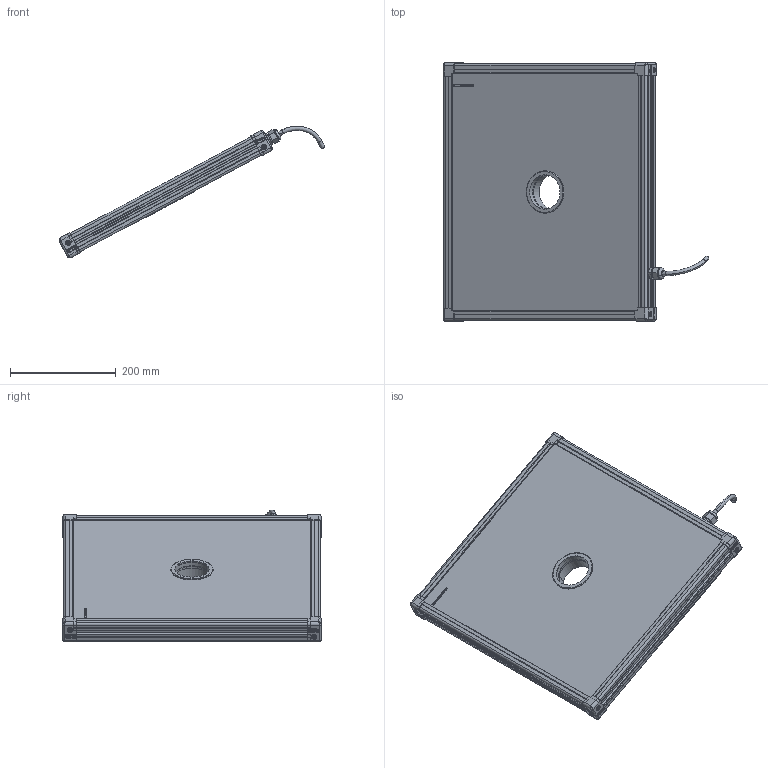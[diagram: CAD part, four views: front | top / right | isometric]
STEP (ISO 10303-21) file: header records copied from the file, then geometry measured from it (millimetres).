
FILE_DESCRIPTION (( 'STEP AP214' ), '1' );
FILE_NAME ('EFFI-FD-400-449-ZZZ-1M12P.STEP', '2021-06-23T09:58:42', ( '' ), ( '' ), 'SwSTEP 2.0', 'SolidWorks 2021', '' );
FILE_SCHEMA (( 'AUTOMOTIVE_DESIGN' ));
Length unit declared in the file: millimetre
Products named in the file (13): profile Y_PERCE; Pièce13^EFFI-FD-XXX-YYY-ZZZ (1 connecteur) M12POWER Ø65; petite joue + vis; M12 power_AVEC CABLE D8.1; EFFI-FD-400-449-ZZZ-1M12P; profile X_PERCE; 004409; Assemblage Ø65; 004408; petite joue; 000629; 000590
Assembly tree (19 placements, depth 3):
  EFFI-FD-400-449-ZZZ-1M12P
    profile X_PERCE  x2
    profile Y_PERCE
    profile Y_PERCE
    Pièce13^EFFI-FD-XXX-YYY-ZZZ (1 connecteur) M12POWER Ø65
    petite joue + vis  x4
      petite joue
      000629
    M12 power_AVEC CABLE D8.1
    Assemblage Ø65
      004408
      004409
      000590  x3
Bounding box: 503.1 x 489 x 249.72 mm (x, y, z)
Volume: 7316310.1 mm3; surface area: 741742.2 mm2
Topology: 22 solids, 25 shells, 3951 faces, 10520 edges, 6907 vertices
Faces by surface type: plane 2447, cylinder 720, bspline 591, cone 156, torus 29, sphere 8
Entity records: 56000 total; most frequent: CARTESIAN_POINT 22561, ORIENTED_EDGE 7014, DIRECTION 5746, EDGE_CURVE 3509, VECTOR 2458, LINE 2458, VERTEX_POINT 2308, AXIS2_PLACEMENT_3D 1644
